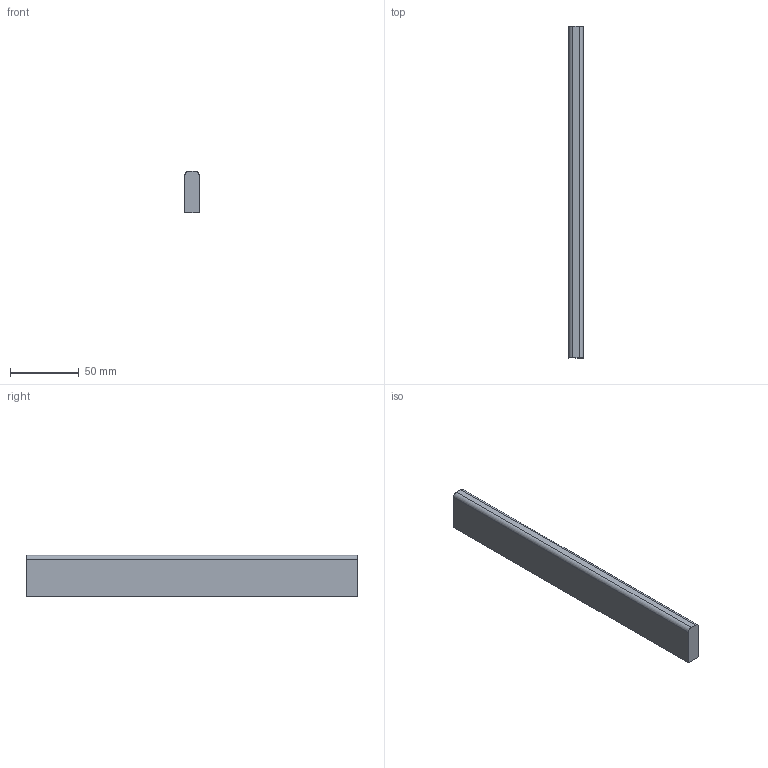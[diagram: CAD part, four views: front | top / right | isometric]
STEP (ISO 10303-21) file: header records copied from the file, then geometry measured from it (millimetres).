
FILE_DESCRIPTION (( 'STEP AP214' ), '1' );
FILE_NAME ('_Seitenreling_SP60701200_RL242,1.step', '2010-09-06T14:51:56', ( 'grass' ), ( '' ), 'SwSTEP 2.0', 'SolidWorks 2010', '' );
FILE_SCHEMA (( 'AUTOMOTIVE_DESIGN' ));
Length unit declared in the file: millimetre
Products named in the file (1): _Seitenreling_SP60701200_RL242,1
Bounding box: 10.5 x 242.1 x 30 mm (x, y, z)
Volume: 75326.3 mm3; surface area: 19608.9 mm2
Topology: 1 solids, 1 shells, 8 faces, 18 edges, 12 vertices
Faces by surface type: plane 6, cylinder 2
Entity records: 260 total; most frequent: DIRECTION 40, CARTESIAN_POINT 39, ORIENTED_EDGE 36, EDGE_CURVE 18, LINE 14, VECTOR 14, AXIS2_PLACEMENT_3D 13, VERTEX_POINT 12
